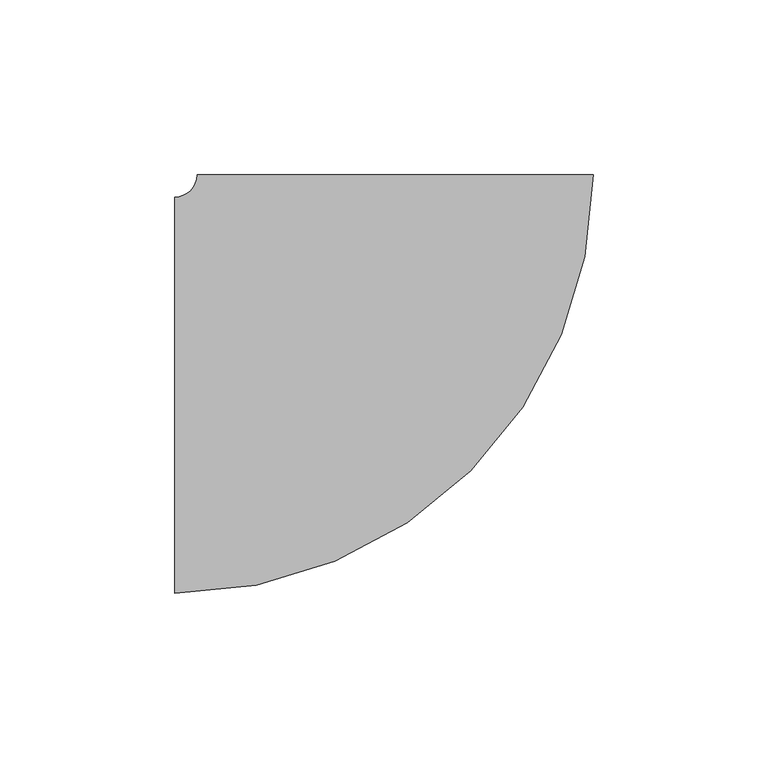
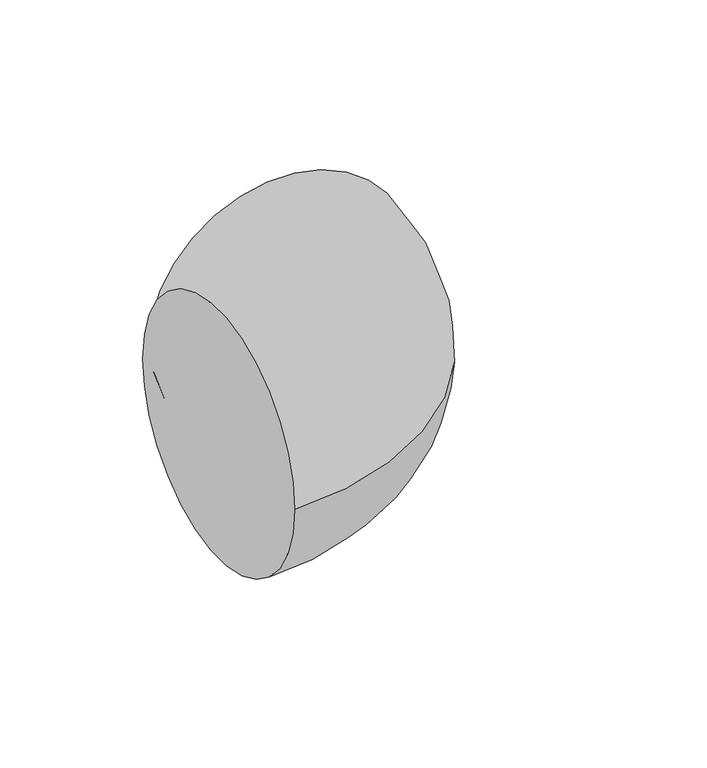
"""IFC4 building model written with IfcOpenShell, lengths in millimetres: pipe fitting geometry, M_Codo - Genérico : Estándar."""

from ifc_helpers import new_model, si_unit, point, frame, origin, place, context, project, spatial, circle_curve, ellipse_curve, trimmed, source, transform, mapped, element, save
from ifc_brep_helpers import plane_surface, revolved_surface, advanced_brep


def pipe_fitting_cd3c4448(model_context):
    return source(origin(), model_context, "Body", "AdvancedBrep", [
        advanced_brep(
        [(-62.9374743, -56.5875, 0.0), (-62.9374743, 56.5875, 0.0), (56.5875257, 62.9374512, 0.0), (-56.5874743, 62.9374974, 0.0)],
        [
            (0, 1, circle_curve(frame((-62.9374743, 0.0, 0.0), z_axis=(-1.0, 0.0, 0.0), x_axis=(0.0, 1.0, 0.0)), 56.5875)),
            (1, 0, circle_curve(frame((-62.9374743, 0.0, 0.0), z_axis=(-1.0, 0.0, 0.0), x_axis=(0.0, 1.0, 0.0)), 56.5875)),
            (2, 3, circle_curve(frame((2.57e-05, 62.9374743, 0.0), z_axis=(4.0863931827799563e-07, 0.9999999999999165, 0.0), x_axis=(-0.9999999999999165, 4.0863931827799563e-07, 0.0)), 56.5875)),
            (3, 2, circle_curve(frame((2.57e-05, 62.9374743, 0.0), z_axis=(4.0863931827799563e-07, 0.9999999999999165, 0.0), x_axis=(-0.9999999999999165, 4.0863931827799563e-07, 0.0)), 56.5875)),
            (3, 1, circle_curve(frame((-62.9374743, 62.9375, 0.0), z_axis=(0.0, 0.0, -1.0), x_axis=(0.0, -1.0, 0.0)), 6.35)),
            (0, 2, circle_curve(frame((-62.9374743, 62.9375, 0.0), z_axis=(0.0, 0.0, 1.0), x_axis=(0.0, -1.0, 0.0)), 119.525)),
        ],
        [
            plane_surface(frame((-62.9374743, 0.0, 0.0), z_axis=(-1.0, 0.0, 0.0), x_axis=(0.0, 0.0, 1.0))),
            plane_surface(frame((2.57e-05, 62.9374743, 0.0), z_axis=(4.086393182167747e-07, 0.9999999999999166, 0.0), x_axis=(0.0, 0.0, 1.0))),
            revolved_surface(trimmed(ellipse_curve(frame((-62.9374743, 0.0, 0.0), z_axis=(-1.0, 0.0, 0.0), x_axis=(0.0, 1.0, 0.0)), 56.5875, 56.5875), [point((-62.9374743, -56.5875, 0.0))], [point((-62.9374743, 56.5875, 0.0))], True, "CARTESIAN"), (-62.9374743, 62.9375, 0.0), (0.0, 0.0, 1.0)),
            revolved_surface(trimmed(ellipse_curve(frame((-62.9374743, 0.0, 0.0), z_axis=(-1.0, 0.0, 0.0), x_axis=(0.0, 1.0, 0.0)), 56.5875, 56.5875), [point((-62.9374743, 56.5875, 0.0))], [point((-62.9374743, -56.5875, 0.0))], True, "CARTESIAN"), (-62.9374743, 62.9375, 0.0), (0.0, 0.0, 1.0)),
        ],
        [
            (0, [[1, 2]]),
            (1, [[3, 4]]),
            (2, [[5, -1, 6, -4]]),
            (3, [[-6, -2, -5, -3]]),
        ],
    ),
    ])


if __name__ == "__main__":
    model = new_model("IFC4")
    model_context = context("Model", 3, world=origin())
    ifc_project = project(units=[si_unit("LENGTHUNIT", "METRE", prefix="MILLI")], contexts=[model_context])
    site = spatial("IfcSite", under=ifc_project)
    building = spatial("IfcBuilding", under=site)
    placement = place(None, origin())
    pipe_fitting_shape = pipe_fitting_cd3c4448(model_context)
    element("IfcPipeFitting", 1, ObjectType="M_Codo - Genérico : Estándar", at=placement, inside=building, context=model_context, shape_type="MappedRepresentation", body=[
        mapped(pipe_fitting_shape, transform((0.0, 0.0, 0.0), x_axis=(1.0, 0.0, 0.0), y_axis=(0.0, 1.0, 0.0), z_axis=(0.0, 0.0, 1.0))),
    ])
    save(model, "model.ifc")
